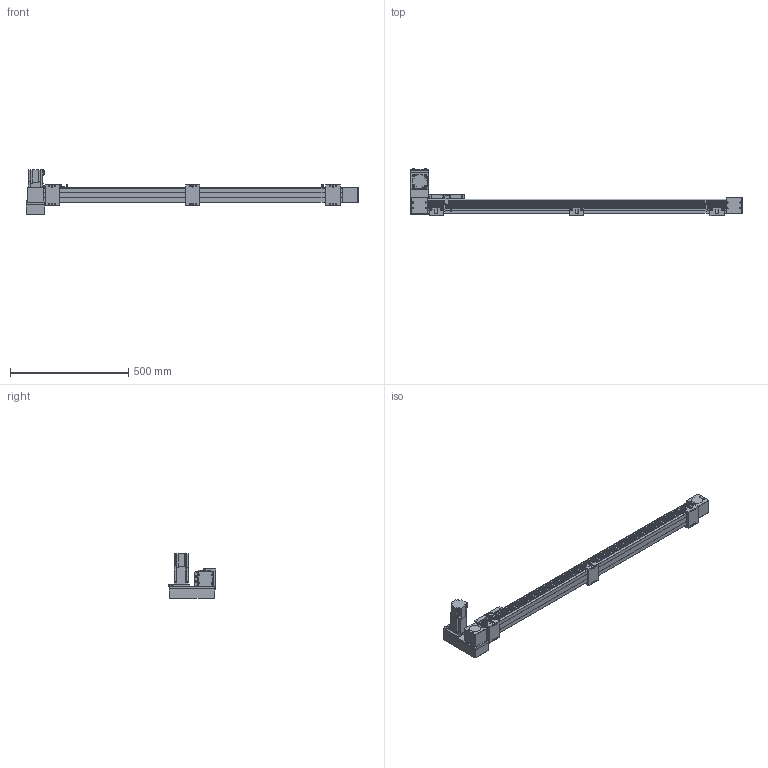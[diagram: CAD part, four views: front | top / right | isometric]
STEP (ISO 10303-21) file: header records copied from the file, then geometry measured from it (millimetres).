
FILE_DESCRIPTION(/* description */ ('STEP AP214'),/* implementation_level */ '2;1');
FILE_NAME(/* name */ 'SK60-P13-S1100-LU-T40-C1-N(0)',/* time_stamp */ '2023-04-06T04:47:46+02:00',/* author */ ('License CC BY-ND 4.0'),/* organization */ ('CADENAS'),/* preprocessor_version */ 'ST-DEVELOPER v19.3',/* originating_system */ 'PARTsolutions',/* authorisation */ ' ');
FILE_SCHEMA (('AUTOMOTIVE_DESIGN {1 0 10303 214 3 1 1}'));
Length unit declared in the file: millimetre
Products named in the file (10): SK60-P13-S1100-LU-T40-C1-N(0); PSC140-sensor; SK60-S450_seat; SK60-S450-BL-C1_slider; SK60_body3; SK60_body6; SK60-BL_body2; T40-p1; SK60-LU_fb; SK60-S1100-LU-C1_body
Assembly tree (17 placements, depth 2):
  SK60-P13-S1100-LU-T40-C1-N(0)
    PSC140-sensor  x3
    SK60-S450_seat  x3
    SK60-S450-BL-C1_slider
    SK60_body3  x3
    SK60_body6  x2
    SK60-BL_body2  x2
    T40-p1
    SK60-LU_fb
    SK60-S1100-LU-C1_body
Bounding box: 1405.5 x 201 x 189.7 mm (x, y, z)
Volume: 5992892.9 mm3; surface area: 751071.7 mm2
Topology: 17 solids, 17 shells, 854 faces, 2146 edges, 1413 vertices
Faces by surface type: plane 548, cylinder 278, cone 26, torus 2
Full cylindrical faces by diameter (mm): 2.8 x3, 3.3 x4, 4 x2, 4.5 x30, 4.6 x3, 4.917 x20, 5 x6, 5.478 x4, 5.5 x23, 6.5 x6, 7 x2, 8 x4, 8.5 x4, 9.988 x4, 10 x12, 14 x1, 47 x3, 50 x2
Entity records: 18663 total; most frequent: DIRECTION 3186, CARTESIAN_POINT 3151, ORIENTED_EDGE 2940, EDGE_CURVE 1470, AXIS2_PLACEMENT_3D 1069, LINE 1048, VECTOR 1048, VERTEX_POINT 1034
